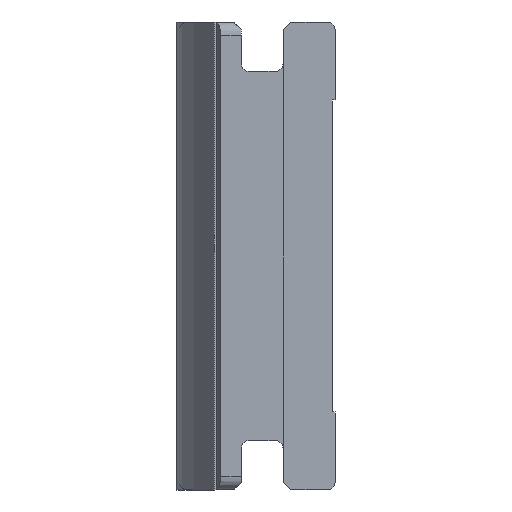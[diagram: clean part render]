
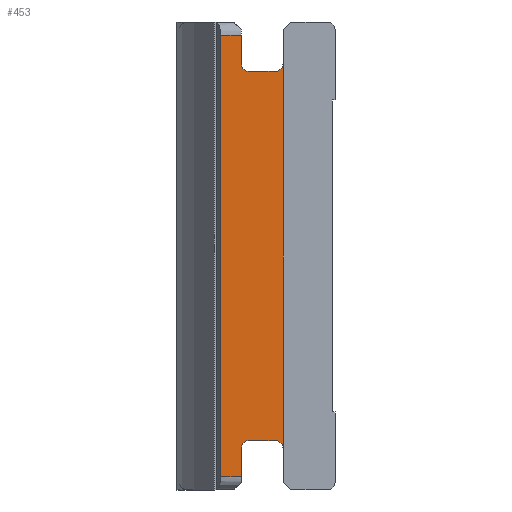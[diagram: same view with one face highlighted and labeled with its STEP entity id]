
A CAD part, left-side view. The second image highlights one B-rep face of the part: STEP entity #453.
In plain terms, the highlighted planar face has unit normal (-1, 0, 0).
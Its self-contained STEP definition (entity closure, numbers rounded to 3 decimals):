
#3 = ORIENTED_EDGE ( 'NONE', *, *, #42, .F. ) ;
#38 = CARTESIAN_POINT ( 'NONE',  ( 10., 3.5, -8.7 ) ) ;
#40 = VERTEX_POINT ( 'NONE', #173 ) ;
#42 = EDGE_CURVE ( 'NONE', #169, #278, #333, .T. ) ;
#82 = EDGE_LOOP ( 'NONE', ( #3, #1130, #243, #375, #1835, #1133, #566, #1766, #743, #1725, #412, #892 ) ) ;
#83 = CARTESIAN_POINT ( 'NONE',  ( 10., 2.2, 7.1 ) ) ;
#126 = CARTESIAN_POINT ( 'NONE',  ( 10., 3.2, -7.4 ) ) ;
#134 = PLANE ( 'NONE',  #1715 ) ;
#158 = LINE ( 'NONE', #1765, #1274 ) ;
#168 = CIRCLE ( 'NONE', #1023, 0.3 ) ;
#169 = VERTEX_POINT ( 'NONE', #1637 ) ;
#173 = CARTESIAN_POINT ( 'NONE',  ( 10., 1.9, 7.4 ) ) ;
#220 = VECTOR ( 'NONE', #1609, 1000. ) ;
#243 = ORIENTED_EDGE ( 'NONE', *, *, #261, .F. ) ;
#261 = EDGE_CURVE ( 'NONE', #770, #1519, #491, .T. ) ;
#275 = VERTEX_POINT ( 'NONE', #1271 ) ;
#276 = DIRECTION ( 'NONE',  ( 0., 0., -1. ) ) ;
#278 = VERTEX_POINT ( 'NONE', #1838 ) ;
#286 = LINE ( 'NONE', #1851, #1265 ) ;
#290 = DIRECTION ( 'NONE',  ( 1., 0., 0. ) ) ;
#309 = VERTEX_POINT ( 'NONE', #1146 ) ;
#330 = DIRECTION ( 'NONE',  ( -1., 0., 0. ) ) ;
#333 = LINE ( 'NONE', #1465, #586 ) ;
#361 = DIRECTION ( 'NONE',  ( 0., 0., -1. ) ) ;
#375 = ORIENTED_EDGE ( 'NONE', *, *, #1808, .T. ) ;
#412 = ORIENTED_EDGE ( 'NONE', *, *, #972, .F. ) ;
#453 = ADVANCED_FACE ( 'NONE', ( #1625 ), #134, .F. ) ;
#479 = AXIS2_PLACEMENT_3D ( 'NONE', #1143, #1001, #276 ) ;
#491 = LINE ( 'NONE', #1499, #1249 ) ;
#566 = ORIENTED_EDGE ( 'NONE', *, *, #1871, .F. ) ;
#567 = VECTOR ( 'NONE', #1804, 1000. ) ;
#569 = EDGE_CURVE ( 'NONE', #1718, #40, #1109, .T. ) ;
#586 = VECTOR ( 'NONE', #604, 1000. ) ;
#604 = DIRECTION ( 'NONE',  ( 0., 0., -1. ) ) ;
#611 = EDGE_CURVE ( 'NONE', #1716, #1427, #1226, .T. ) ;
#626 = CARTESIAN_POINT ( 'NONE',  ( 10., 2.2, -7.1 ) ) ;
#689 = CARTESIAN_POINT ( 'NONE',  ( 10., 2.2, -7.4 ) ) ;
#701 = CIRCLE ( 'NONE', #479, 0.3 ) ;
#743 = ORIENTED_EDGE ( 'NONE', *, *, #1548, .F. ) ;
#749 = DIRECTION ( 'NONE',  ( 0., 1., 0. ) ) ;
#752 = EDGE_CURVE ( 'NONE', #275, #1716, #168, .T. ) ;
#770 = VERTEX_POINT ( 'NONE', #1404 ) ;
#803 = DIRECTION ( 'NONE',  ( 0., 0., -1. ) ) ;
#824 = EDGE_CURVE ( 'NONE', #278, #309, #701, .T. ) ;
#866 = CARTESIAN_POINT ( 'NONE',  ( 10., 3.5, -8.5 ) ) ;
#874 = DIRECTION ( 'NONE',  ( 0., 0., -1. ) ) ;
#892 = ORIENTED_EDGE ( 'NONE', *, *, #824, .F. ) ;
#907 = CARTESIAN_POINT ( 'NONE',  ( 10., 2.2, 7.4 ) ) ;
#972 = EDGE_CURVE ( 'NONE', #309, #1718, #286, .T. ) ;
#1001 = DIRECTION ( 'NONE',  ( -1., 0., 0. ) ) ;
#1023 = AXIS2_PLACEMENT_3D ( 'NONE', #126, #1392, #1676 ) ;
#1036 = CARTESIAN_POINT ( 'NONE',  ( 10., 1.9, -29.536 ) ) ;
#1070 = DIRECTION ( 'NONE',  ( 0., 1., 0. ) ) ;
#1076 = AXIS2_PLACEMENT_3D ( 'NONE', #689, #1221, #361 ) ;
#1082 = CIRCLE ( 'NONE', #1076, 0.3 ) ;
#1109 = CIRCLE ( 'NONE', #1376, 0.3 ) ;
#1130 = ORIENTED_EDGE ( 'NONE', *, *, #1517, .T. ) ;
#1133 = ORIENTED_EDGE ( 'NONE', *, *, #752, .F. ) ;
#1143 = CARTESIAN_POINT ( 'NONE',  ( 10., 3.2, 7.4 ) ) ;
#1146 = CARTESIAN_POINT ( 'NONE',  ( 10., 3.2, 7.1 ) ) ;
#1147 = VERTEX_POINT ( 'NONE', #626 ) ;
#1221 = DIRECTION ( 'NONE',  ( -1., 0., 0. ) ) ;
#1226 = LINE ( 'NONE', #38, #567 ) ;
#1249 = VECTOR ( 'NONE', #1566, 1000. ) ;
#1265 = VECTOR ( 'NONE', #1863, 1000. ) ;
#1271 = CARTESIAN_POINT ( 'NONE',  ( 10., 3.2, -7.1 ) ) ;
#1274 = VECTOR ( 'NONE', #1070, 1000. ) ;
#1298 = EDGE_CURVE ( 'NONE', #1477, #1147, #1082, .T. ) ;
#1368 = CARTESIAN_POINT ( 'NONE',  ( 10., 1.9, -8.5 ) ) ;
#1376 = AXIS2_PLACEMENT_3D ( 'NONE', #907, #330, #803 ) ;
#1383 = CARTESIAN_POINT ( 'NONE',  ( 10., 3.5, -7.4 ) ) ;
#1392 = DIRECTION ( 'NONE',  ( -1., 0., 0. ) ) ;
#1404 = CARTESIAN_POINT ( 'NONE',  ( 10., 4.3, -8.5 ) ) ;
#1427 = VERTEX_POINT ( 'NONE', #866 ) ;
#1464 = CARTESIAN_POINT ( 'NONE',  ( 10., 1.9, 8.5 ) ) ;
#1465 = CARTESIAN_POINT ( 'NONE',  ( 10., 3.5, 8.7 ) ) ;
#1474 = LINE ( 'NONE', #1464, #1591 ) ;
#1477 = VERTEX_POINT ( 'NONE', #1549 ) ;
#1499 = CARTESIAN_POINT ( 'NONE',  ( 10., 4.3, -29.536 ) ) ;
#1509 = LINE ( 'NONE', #1368, #1621 ) ;
#1517 = EDGE_CURVE ( 'NONE', #169, #1519, #1474, .T. ) ;
#1519 = VERTEX_POINT ( 'NONE', #1617 ) ;
#1548 = EDGE_CURVE ( 'NONE', #40, #1477, #1770, .T. ) ;
#1549 = CARTESIAN_POINT ( 'NONE',  ( 10., 1.9, -7.4 ) ) ;
#1566 = DIRECTION ( 'NONE',  ( 0., 0., 1. ) ) ;
#1585 = CARTESIAN_POINT ( 'NONE',  ( 10., 1.9, -29.536 ) ) ;
#1591 = VECTOR ( 'NONE', #749, 1000. ) ;
#1609 = DIRECTION ( 'NONE',  ( 0., 0., -1. ) ) ;
#1617 = CARTESIAN_POINT ( 'NONE',  ( 10., 4.3, 8.5 ) ) ;
#1621 = VECTOR ( 'NONE', #1672, 1000. ) ;
#1625 = FACE_OUTER_BOUND ( 'NONE', #82, .T. ) ;
#1637 = CARTESIAN_POINT ( 'NONE',  ( 10., 3.5, 8.5 ) ) ;
#1672 = DIRECTION ( 'NONE',  ( 0., -1., 0. ) ) ;
#1676 = DIRECTION ( 'NONE',  ( 0., 0., -1. ) ) ;
#1715 = AXIS2_PLACEMENT_3D ( 'NONE', #1585, #290, #874 ) ;
#1716 = VERTEX_POINT ( 'NONE', #1383 ) ;
#1718 = VERTEX_POINT ( 'NONE', #83 ) ;
#1725 = ORIENTED_EDGE ( 'NONE', *, *, #569, .F. ) ;
#1765 = CARTESIAN_POINT ( 'NONE',  ( 10., 3.2, -7.1 ) ) ;
#1766 = ORIENTED_EDGE ( 'NONE', *, *, #1298, .F. ) ;
#1770 = LINE ( 'NONE', #1036, #220 ) ;
#1804 = DIRECTION ( 'NONE',  ( 0., 0., -1. ) ) ;
#1808 = EDGE_CURVE ( 'NONE', #770, #1427, #1509, .T. ) ;
#1835 = ORIENTED_EDGE ( 'NONE', *, *, #611, .F. ) ;
#1838 = CARTESIAN_POINT ( 'NONE',  ( 10., 3.5, 7.4 ) ) ;
#1851 = CARTESIAN_POINT ( 'NONE',  ( 10., 3.2, 7.1 ) ) ;
#1863 = DIRECTION ( 'NONE',  ( 0., -1., 0. ) ) ;
#1871 = EDGE_CURVE ( 'NONE', #1147, #275, #158, .T. ) ;
